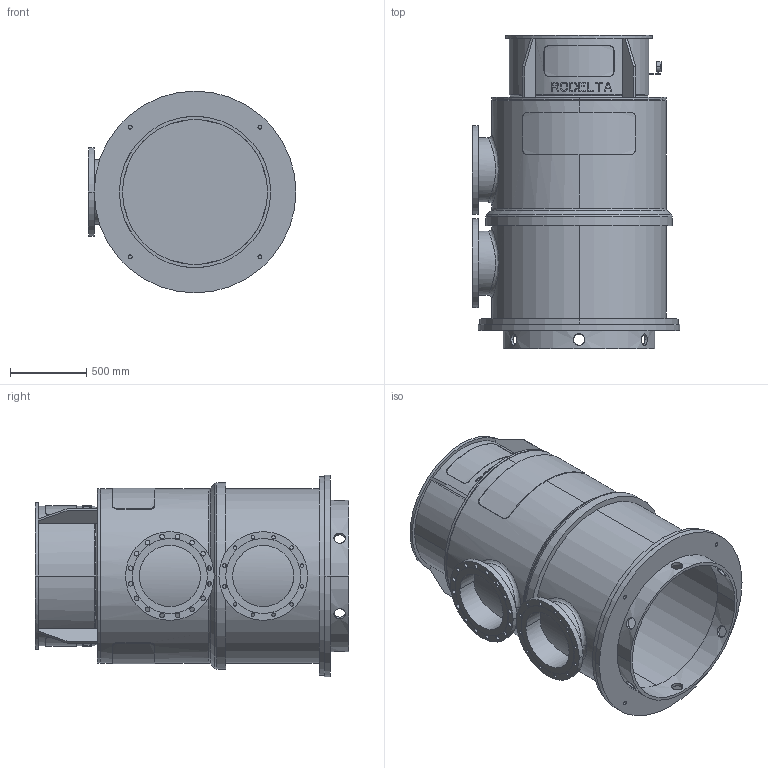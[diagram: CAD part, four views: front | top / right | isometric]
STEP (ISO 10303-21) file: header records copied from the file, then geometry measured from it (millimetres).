
FILE_DESCRIPTION((''),'2;1');
FILE_NAME('LS16_1TR_0GR','2023-08-23T',('Lyritlocal'),(''),'PRO/ENGINEER BY PARAMETRIC TECHNOLOGY CORPORATION, 2016360','PRO/ENGINEER BY PARAMETRIC TECHNOLOGY CORPORATION, 2016360','');
FILE_SCHEMA(('CONFIG_CONTROL_DESIGN'));
Length unit declared in the file: millimetre
Products named in the file (1): LS16_1TR_0GR
Bounding box: 1360 x 2052.5 x 1320 mm (x, y, z)
Volume: 171776432.1 mm3; surface area: 20406842.1 mm2
Topology: 3 solids, 3 shells, 564 faces, 1497 edges, 984 vertices
Faces by surface type: plane 346, cylinder 196, cone 14, bspline 4, torus 4
Entity records: 18911 total; most frequent: CARTESIAN_POINT 5089, ORIENTED_EDGE 2994, DIRECTION 2647, EDGE_CURVE 1497, AXIS2_PLACEMENT_3D 996, VERTEX_POINT 984, EDGE_LOOP 689, VECTOR 655
